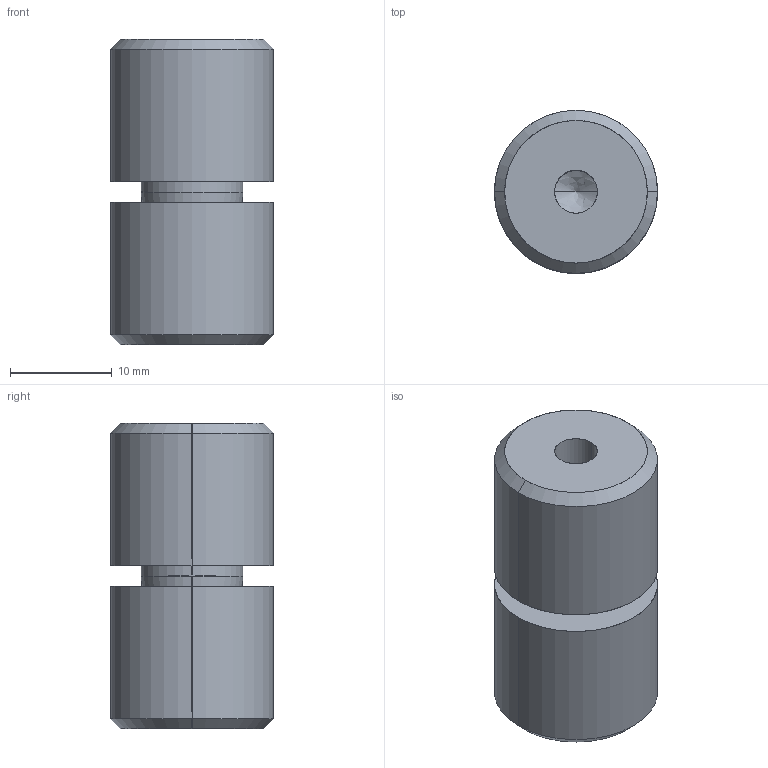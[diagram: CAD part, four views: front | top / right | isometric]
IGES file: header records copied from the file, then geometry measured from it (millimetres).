
Start section: SolidWorks IGES file using analytic representation for surfaces
Global section: file name: D:\Current\W1\ZTPN\ZTPN16-5\ZTPN16-5.IGS; native system: SolidWorks 2017; preprocessor: SolidWorks 2017; author: Ravi Kalvai; date: 240604.104527; units: millimetre
Bounding box: 16 x 16 x 30 mm (x, y, z)
Surface area: 2728 mm2 (no closed solid volume)
Topology: 0 solids, 0 shells, 32 faces, 456 edges, 454 vertices
Faces by surface type: revolution 24, bspline 8
